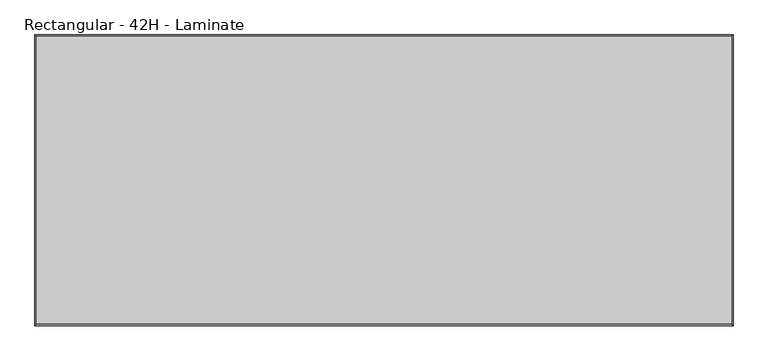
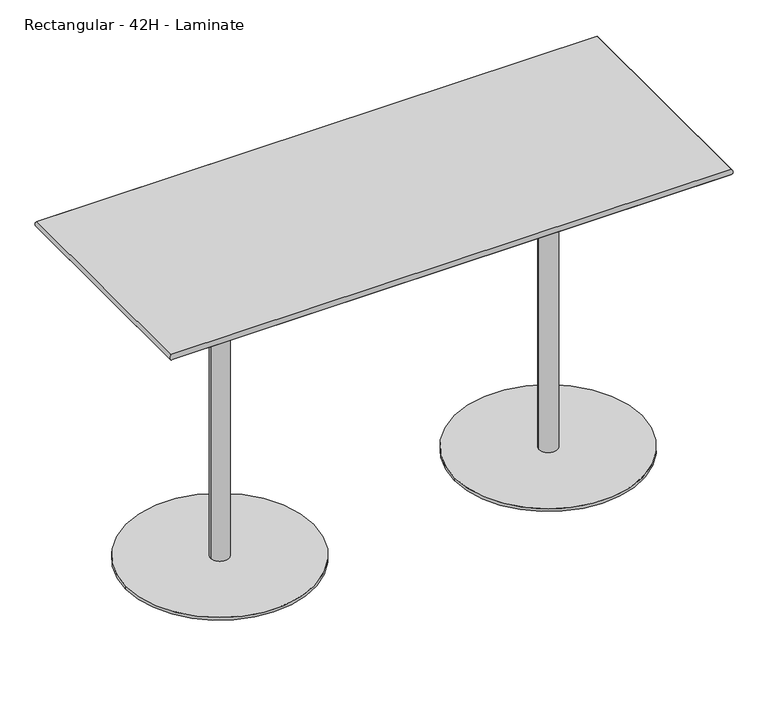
"""IFC4 building model written with IfcOpenShell, lengths in millimetres: furniture geometry, Steelcase Coalesse - Enea - Table - Double Base : Rectangular - 42H - Laminate."""

import ifcopenshell
import ifcopenshell.guid

model = None  # the IFC model being written
_history = None  # IfcOwnerHistory: only IFC2X3 demands one
_inside = {}  # id of a spatial element -> (the spatial element, [elements in it])
_under = {}  # id of a project, library or spatial element -> (it, [spatial elements below it])
_declared = {}  # id of a project -> (the project, [libraries it declares])
_typed = {}  # id of a type object -> (the type object, [elements of that type])
_made_of = {}  # id of a material, layer set ... -> (it, [elements and type objects made of it])


def new_model(schema):
    """Start an empty IFC model of exactly this schema.

    Asked for "IFC4X3", IfcOpenShell would pick the latest addendum, in which some entities
    have other attributes; the version numbers below select the first issue.
    IFC2X3 requires an IfcOwnerHistory on every rooted entity: one is made here for all.
    """
    global model, _history
    if schema == "IFC4X3":
        model = ifcopenshell.file(schema_version=(4, 3, 0, 0))
    else:
        model = ifcopenshell.file(schema=schema)
    _inside.clear()
    _under.clear()
    _declared.clear()
    _typed.clear()
    _made_of.clear()
    _history = None
    if model.schema == "IFC2X3":
        org = make("IfcOrganization", Name="unknown")
        user = make(
            "IfcPersonAndOrganization",
            ThePerson=make("IfcPerson", FamilyName="unknown"),
            TheOrganization=org,
        )
        app = make(
            "IfcApplication",
            ApplicationDeveloper=org,
            Version="unknown",
            ApplicationFullName="unknown",
            ApplicationIdentifier="unknown",
        )
        _history = make(
            "IfcOwnerHistory",
            OwningUser=user,
            OwningApplication=app,
            ChangeAction="ADDED",
            CreationDate=0,
        )
    return model


def make(cls, **values):
    """One entity of the class cls with the attributes given. An attribute that is None is left unset."""
    return model.create_entity(
        cls, **{name: value for name, value in values.items() if value is not None}
    )


def rooted(cls, **values):
    """An entity with a GlobalId (a new one), such as an element, a storey or a relation."""
    return make(cls, GlobalId=ifcopenshell.guid.new(), OwnerHistory=_history, **values)


def si_unit(unit_type, name, prefix=None):
    """IfcSIUnit, for example si_unit("LENGTHUNIT", "METRE", prefix="MILLI")."""
    return make("IfcSIUnit", UnitType=unit_type, Prefix=prefix, Name=name)


def assignment(units):
    """IfcUnitAssignment: the units of a project."""
    return None if units is None else make("IfcUnitAssignment", Units=units)


def point(xyz):
    """IfcCartesianPoint."""
    return None if xyz is None else make("IfcCartesianPoint", Coordinates=xyz)


def direction(xyz):
    """IfcDirection."""
    return None if xyz is None else make("IfcDirection", DirectionRatios=xyz)


def frame(location, z_axis=None, x_axis=None):
    """IfcAxis2Placement3D, a coordinate frame: its origin and axes. An axis left out is left unset."""
    return make(
        "IfcAxis2Placement3D",
        Location=point(location),
        Axis=direction(z_axis),
        RefDirection=direction(x_axis),
    )


def frame_2d(location, x_axis=None):
    """IfcAxis2Placement2D, a coordinate frame in the plane: its origin and x axis."""
    return make(
        "IfcAxis2Placement2D", Location=point(location), RefDirection=direction(x_axis)
    )


def origin():
    """The frame at (0, 0, 0) with its axes left unset."""
    return frame((0.0, 0.0, 0.0))


def origin_with_axes():
    """The frame at (0, 0, 0) with the z axis (0, 0, 1) and the x axis (1, 0, 0) written out."""
    return frame((0.0, 0.0, 0.0), z_axis=(0.0, 0.0, 1.0), x_axis=(1.0, 0.0, 0.0))


def place(relative_to, where):
    """IfcLocalPlacement: puts the frame where relative to a parent placement (None: the world)."""
    return make(
        "IfcLocalPlacement", PlacementRelTo=relative_to, RelativePlacement=where
    )


def context(
    kind, dimensions, precision=None, world=None, true_north=None, identifier=None
):
    """IfcGeometricRepresentationContext, for example the 3D "Model" context."""
    return make(
        "IfcGeometricRepresentationContext",
        ContextIdentifier=identifier,
        ContextType=kind,
        CoordinateSpaceDimension=dimensions,
        Precision=precision,
        WorldCoordinateSystem=world,
        TrueNorth=true_north,
    )


def project(units=None, contexts=None):
    """IfcProject with its units and contexts."""
    return rooted(
        "IfcProject",
        Name="project",
        RepresentationContexts=contexts,
        UnitsInContext=assignment(units),
    )


def spatial(cls, under=None, at=None, **own):
    """A site, building, storey or space (cls), placed at a placement, below another one or the project."""
    s = rooted(cls, ObjectPlacement=at, **own)
    if under is not None:
        _under.setdefault(under.id(), (under, []))[1].append(s)
    return s


def polyline(points):
    """IfcPolyline through the points."""
    return make("IfcPolyline", Points=[point(p) for p in points])


def circle_curve(where, radius):
    """IfcCircle in the frame where."""
    return make("IfcCircle", Position=where, Radius=radius)


def ellipse_curve(where, semi_axis1, semi_axis2):
    """IfcEllipse in the frame where."""
    return make(
        "IfcEllipse", Position=where, SemiAxis1=semi_axis1, SemiAxis2=semi_axis2
    )


def trimmed(basis, trim1, trim2, sense, master):
    """IfcTrimmedCurve: the piece of a basis curve between two trims."""
    return make(
        "IfcTrimmedCurve",
        BasisCurve=basis,
        Trim1=trim1,
        Trim2=trim2,
        SenseAgreement=sense,
        MasterRepresentation=master,
    )


def segment(curve, same_sense, transition):
    """IfcCompositeCurveSegment."""
    return make(
        "IfcCompositeCurveSegment",
        Transition=transition,
        SameSense=same_sense,
        ParentCurve=curve,
    )


def composite_curve(segments, self_intersect=None):
    """IfcCompositeCurve: segments joined end to end."""
    return make("IfcCompositeCurve", Segments=segments, SelfIntersect=self_intersect)


def outline(outer, holes=None, kind="AREA"):
    """IfcArbitraryClosedProfileDef: a profile drawn as a closed curve; with holes, ...WithVoids."""
    if holes is None:
        return make("IfcArbitraryClosedProfileDef", ProfileType=kind, OuterCurve=outer)
    return make(
        "IfcArbitraryProfileDefWithVoids",
        ProfileType=kind,
        OuterCurve=outer,
        InnerCurves=holes,
    )


def extrude(swept, where, along, depth):
    """IfcExtrudedAreaSolid: the profile swept, set in the frame where, extruded along a direction by depth."""
    return make(
        "IfcExtrudedAreaSolid",
        SweptArea=swept,
        Position=where,
        ExtrudedDirection=direction(along),
        Depth=depth,
    )


def shape(context_of_items, identifier, shape_type, items):
    """IfcShapeRepresentation: the items that make up one representation, for example the "Body"."""
    return make(
        "IfcShapeRepresentation",
        ContextOfItems=context_of_items,
        RepresentationIdentifier=identifier,
        RepresentationType=shape_type,
        Items=items,
    )


def source(mapping_origin, context_of_items, identifier, shape_type, items):
    """IfcRepresentationMap: a shape defined once, which mapped items show again and again."""
    return make(
        "IfcRepresentationMap",
        MappingOrigin=mapping_origin,
        MappedRepresentation=shape(context_of_items, identifier, shape_type, items),
    )


def transform(
    local_origin,
    x_axis=None,
    y_axis=None,
    z_axis=None,
    scale=None,
    scale2=None,
    scale3=None,
    uniform=True,
):
    """IfcCartesianTransformationOperator3D, or its non-uniform kind. x_axis, y_axis, z_axis: its Axis1, 2, 3."""
    if uniform:
        return make(
            "IfcCartesianTransformationOperator3D",
            Axis1=direction(x_axis),
            Axis2=direction(y_axis),
            LocalOrigin=point(local_origin),
            Scale=scale,
            Axis3=direction(z_axis),
        )
    return make(
        "IfcCartesianTransformationOperator3DnonUniform",
        Axis1=direction(x_axis),
        Axis2=direction(y_axis),
        LocalOrigin=point(local_origin),
        Scale=scale,
        Axis3=direction(z_axis),
        Scale2=scale2,
        Scale3=scale3,
    )


def mapped(mapping_source, mapping_target):
    """IfcMappedItem: shows the shape of a source again, moved by a transform."""
    return make(
        "IfcMappedItem", MappingSource=mapping_source, MappingTarget=mapping_target
    )


def made_of(thing, what):
    """Note that an element or type object is made of a material, layer set ...; save() writes the relation."""
    if what is not None:
        _made_of.setdefault(what.id(), (what, []))[1].append(thing)
    return thing


def element(
    cls,
    number,
    at=None,
    inside=None,
    cuts=None,
    type_object=None,
    material=None,
    context=None,
    identifier="Body",
    shape_type=None,
    held_by="IfcProductDefinitionShape",
    body=None,
    shapes=None,
    **own,
):
    """One element of the class cls, such as IfcWall. Its Tag is "e" and its number.

    at: its placement. inside: the storey or other place that contains it. cuts: it is an
    opening in that element (IfcRelVoidsElement). A single representation is given by context,
    identifier, shape_type and body (its items); several are given by shapes. held_by: the class
    of the entity that holds the representations. save() writes the other relations.
    """
    e = rooted(cls, Tag="e%d" % number, ObjectPlacement=at, **own)
    if body is not None:
        shapes = [shape(context, identifier, shape_type, body)]
    if shapes is not None:
        e.Representation = make(held_by, Representations=shapes)
    if inside is not None:
        _inside.setdefault(inside.id(), (inside, []))[1].append(e)
    if cuts is not None:
        rooted(
            "IfcRelVoidsElement", RelatingBuildingElement=cuts, RelatedOpeningElement=e
        )
    if type_object is not None:
        _typed.setdefault(type_object.id(), (type_object, []))[1].append(e)
    return made_of(e, material)


def aggregate(whole, parts):
    """IfcRelAggregates: a whole, such as a stair, and the parts it consists of."""
    return rooted("IfcRelAggregates", RelatingObject=whole, RelatedObjects=parts)


def save(model, path):
    """Write the relations noted so far, then the file.

    IfcRelAggregates (storeys below a building ...), IfcRelContainedInSpatialStructure (elements
    in a storey), IfcRelDefinesByType, IfcRelAssociatesMaterial and IfcRelDeclares: one each for
    every whole, place, type object, material and project.
    """
    for whole, parts in _under.values():
        aggregate(whole, parts)
    for where, things in _inside.values():
        rooted(
            "IfcRelContainedInSpatialStructure",
            RelatedElements=things,
            RelatingStructure=where,
        )
    for kind, things in _typed.values():
        rooted("IfcRelDefinesByType", RelatedObjects=things, RelatingType=kind)
    for what, things in _made_of.values():
        rooted("IfcRelAssociatesMaterial", RelatedObjects=things, RelatingMaterial=what)
    for by, libraries in _declared.values():
        rooted("IfcRelDeclares", RelatingContext=by, RelatedDefinitions=libraries)
    model.write(path)


def plane_surface(at):
    """IfcPlane: the flat surface through the origin of the frame at, square to its z axis."""
    return make("IfcPlane", Position=at)


def cylinder_surface(at, radius):
    """IfcCylindricalSurface: all points at the distance radius from the z axis of the frame at."""
    return make("IfcCylindricalSurface", Position=at, Radius=radius)


def advanced_brep(points, edges, surfaces, faces):
    """IfcAdvancedBrep: a solid bounded by faces that lie on surfaces and meet in shared edges.

    An edge is (start, end): straight between two places in points (the first is 0);
    or (start, end, curve); or (start, end, curve, False) where it runs against its curve.
    A face is (place in surfaces, loops), or (place, loops, False) where it looks against
    its surface's normal. A loop lists edges by number (the first is 1), with a minus sign
    where the edge is run from its end to its start. The first loop is the outer one.
    """
    corners = [point(p) for p in points]
    vertices = [make("IfcVertexPoint", VertexGeometry=c) for c in corners]
    made = []
    for start, end, *more in edges:
        made.append(
            make(
                "IfcEdgeCurve",
                EdgeStart=vertices[start],
                EdgeEnd=vertices[end],
                EdgeGeometry=more[0] if more else make("IfcPolyline", Points=[corners[start], corners[end]]),
                SameSense=more[1] if len(more) > 1 else True,
            )
        )
    hull = []
    for where, loops, *sense in faces:
        bounds = []
        for j, loop in enumerate(loops):
            ring = [make("IfcOrientedEdge", EdgeElement=made[abs(k) - 1], Orientation=k > 0) for k in loop]
            bounds.append(
                make(
                    "IfcFaceOuterBound" if j == 0 else "IfcFaceBound",
                    Bound=make("IfcEdgeLoop", EdgeList=ring),
                    Orientation=True,
                )
            )
        hull.append(make("IfcAdvancedFace", Bounds=bounds, FaceSurface=surfaces[where], SameSense=sense[0] if sense else True))
    return make("IfcAdvancedBrep", Outer=make("IfcClosedShell", CfsFaces=hull))


def rectangular_42h_laminate_b2aa12cb(model_context):
    return source(origin(), model_context, "Body", "SolidModel", [
        advanced_brep(
        [(-1205.8132353, -914.4181244, 1066.8), (-1205.8132353, -914.4181244, 1047.75), (614.3872896, -914.4181244, 1047.75), (614.3872896, -914.4181244, 1066.8), (614.3872896, -161.0175995, 1047.75), (614.3872896, -161.0175995, 1066.8), (-1205.8132353, -161.0175995, 1047.75), (-1205.8132353, -161.0175995, 1066.8)],
        [
            (0, 1, ellipse_curve(frame((-1196.3937054, -904.9985945, 1057.275), z_axis=(0.7071067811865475, -0.7071067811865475, 0.0), x_axis=(-0.7071067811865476, -0.7071067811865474, 0.0)), 18.9448235, 13.3960131)),
            (1, 2),
            (2, 3, ellipse_curve(frame((604.9677598, -904.9985945, 1057.275), z_axis=(-0.7071067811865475, -0.7071067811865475, 0.0), x_axis=(-0.7071067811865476, 0.7071067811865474, 0.0)), 18.9448235, 13.3960131)),
            (3, 0),
            (1, 0),
            (3, 2),
            (2, 4),
            (4, 5, ellipse_curve(frame((604.9677598, -170.4371294, 1057.275), z_axis=(0.7071067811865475, -0.7071067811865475, 0.0), x_axis=(-0.7071067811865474, -0.7071067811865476, 0.0)), 18.9448235, 13.3960131)),
            (5, 3),
            (5, 4),
            (4, 6),
            (6, 7, ellipse_curve(frame((-1196.3937054, -170.4371294, 1057.275), z_axis=(0.7071067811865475, 0.7071067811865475, 0.0), x_axis=(0.7071067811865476, -0.7071067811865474, 0.0)), 18.9448235, 13.3960131)),
            (7, 5),
            (7, 6),
            (6, 1),
            (0, 7),
        ],
        [
            cylinder_surface(frame((-1205.8132353, -904.9985945, 1057.275), z_axis=(-1.0, 0.0, 0.0), x_axis=(0.0, 1.0, 0.0)), 13.3960131),
            plane_surface(frame((-1205.8132353, -914.4181244, 1066.8), z_axis=(0.0, 1.0, 0.0), x_axis=(1.0, 0.0, 0.0))),
            cylinder_surface(frame((604.9677598, -914.4181244, 1057.275), z_axis=(0.0, -1.0, 0.0), x_axis=(-1.0, 0.0, 0.0)), 13.3960131),
            plane_surface(frame((614.3872896, -914.4181244, 1066.8), z_axis=(-1.0, 0.0, 0.0), x_axis=(0.0, 1.0, 0.0))),
            cylinder_surface(frame((614.3872896, -170.4371294, 1057.275), z_axis=(1.0, 0.0, 0.0), x_axis=(0.0, -1.0, 0.0)), 13.3960131),
            plane_surface(frame((614.3872896, -161.0175995, 1066.8), z_axis=(0.0, -1.0, 0.0), x_axis=(-1.0, 0.0, 0.0))),
            cylinder_surface(frame((-1196.3937054, -161.0175995, 1057.275), z_axis=(0.0, 1.0, 0.0), x_axis=(1.0, 0.0, 0.0)), 13.3960131),
            plane_surface(frame((-1205.8132353, -161.0175995, 1066.8), z_axis=(1.0, 0.0, 0.0), x_axis=(0.0, -1.0, 0.0))),
        ],
        [
            (0, [[1, 2, 3, 4]]),
            (1, [[5, -4, 6, -2]]),
            (2, [[-3, 7, 8, 9]]),
            (3, [[-6, -9, 10, -7]]),
            (4, [[-8, 11, 12, 13]]),
            (5, [[-10, -13, 14, -11]]),
            (6, [[-12, 15, -1, 16]]),
            (7, [[-14, -16, -5, -15]]),
        ],
    ),
        extrude(outline(polyline([(614.3872896, -161.0175995), (614.3872896, -914.4181244), (-1205.8132353, -914.4181244), (-1205.8132353, -161.0175995), (614.3872896, -161.0175995)])), frame((0.0, 0.0, 1047.75), z_axis=(0.0, 0.0, 1.0), x_axis=(1.0, 0.0, 0.0)), (0.0, 0.0, 1.0), 19.05),
        extrude(outline(composite_curve([segment(trimmed(circle_curve(frame_2d((-829.113029, -284.0746893)), 25.4), [point((-803.713029, -284.0746893))], [point((-854.513029, -284.0746893))], False, "CARTESIAN"), True, "CONTINUOUS"), segment(trimmed(circle_curve(frame_2d((-829.113029, -284.0746893)), 25.4), [point((-854.513029, -284.0746893))], [point((-803.713029, -284.0746893))], False, "CARTESIAN"), True, "CONTINUOUS")], self_intersect=False)), origin_with_axes(), (0.0, 0.0, 1.0), 6.35),
        extrude(outline(composite_curve([segment(trimmed(circle_curve(frame_2d((-1082.7563397, -537.3772238)), 25.4), [point((-1057.3563397, -537.3772238))], [point((-1108.1563397, -537.3772238))], False, "CARTESIAN"), True, "CONTINUOUS"), segment(trimmed(circle_curve(frame_2d((-1082.7563397, -537.3772238)), 25.4), [point((-1108.1563397, -537.3772238))], [point((-1057.3563397, -537.3772238))], False, "CARTESIAN"), True, "CONTINUOUS")], self_intersect=False)), origin_with_axes(), (0.0, 0.0, 1.0), 6.35),
        extrude(outline(composite_curve([segment(trimmed(circle_curve(frame_2d((-575.4697182, -537.3772238)), 25.4), [point((-550.0697182, -537.3772238))], [point((-600.8697182, -537.3772238))], False, "CARTESIAN"), True, "CONTINUOUS"), segment(trimmed(circle_curve(frame_2d((-575.4697182, -537.3772238)), 25.4), [point((-600.8697182, -537.3772238))], [point((-550.0697182, -537.3772238))], False, "CARTESIAN"), True, "CONTINUOUS")], self_intersect=False)), origin_with_axes(), (0.0, 0.0, 1.0), 6.35),
        extrude(outline(composite_curve([segment(trimmed(circle_curve(frame_2d((-829.113029, -790.6797584)), 25.4), [point((-803.713029, -790.6797584))], [point((-854.513029, -790.6797584))], False, "CARTESIAN"), True, "CONTINUOUS"), segment(trimmed(circle_curve(frame_2d((-829.113029, -790.6797584)), 25.4), [point((-854.513029, -790.6797584))], [point((-803.713029, -790.6797584))], False, "CARTESIAN"), True, "CONTINUOUS")], self_intersect=False)), origin_with_axes(), (0.0, 0.0, 1.0), 6.35),
        extrude(outline(composite_curve([segment(trimmed(circle_curve(frame_2d((-829.113029, -537.718)), 304.8), [point((-1133.913029, -537.718))], [point((-524.313029, -537.718))], False, "CARTESIAN"), True, "CONTINUOUS"), segment(trimmed(circle_curve(frame_2d((-829.113029, -537.718)), 304.8), [point((-524.313029, -537.718))], [point((-1133.913029, -537.718))], False, "CARTESIAN"), True, "CONTINUOUS")], self_intersect=False)), frame((0.0, 0.0, 6.35), z_axis=(0.0, 0.0, 1.0), x_axis=(1.0, 0.0, 0.0)), (0.0, 0.0, 1.0), 9.525),
        extrude(outline(composite_curve([segment(trimmed(circle_curve(frame_2d((-829.1133197, -537.7179273)), 30.0214725), [point((-859.1347922, -537.7179273))], [point((-799.0918471, -537.7179273))], False, "CARTESIAN"), True, "CONTINUOUS"), segment(trimmed(circle_curve(frame_2d((-829.1133197, -537.7179273)), 30.0214725), [point((-799.0918471, -537.7179273))], [point((-859.1347922, -537.7179273))], False, "CARTESIAN"), True, "CONTINUOUS")], self_intersect=False)), frame((0.0, 0.0, 15.875), z_axis=(0.0, 0.0, 1.0), x_axis=(1.0, 0.0, 0.0)), (0.0, 0.0, 1.0), 1031.875),
        extrude(outline(composite_curve([segment(trimmed(circle_curve(frame_2d((237.686971, -284.0746893)), 25.4), [point((212.286971, -284.0746893))], [point((263.086971, -284.0746893))], False, "CARTESIAN"), True, "CONTINUOUS"), segment(trimmed(circle_curve(frame_2d((237.686971, -284.0746893)), 25.4), [point((263.086971, -284.0746893))], [point((212.286971, -284.0746893))], False, "CARTESIAN"), True, "CONTINUOUS")], self_intersect=False)), origin_with_axes(), (0.0, 0.0, 1.0), 6.35),
        extrude(outline(composite_curve([segment(trimmed(circle_curve(frame_2d((491.3302818, -537.3772238)), 25.4), [point((465.9302818, -537.3772238))], [point((516.7302818, -537.3772238))], False, "CARTESIAN"), True, "CONTINUOUS"), segment(trimmed(circle_curve(frame_2d((491.3302818, -537.3772238)), 25.4), [point((516.7302818, -537.3772238))], [point((465.9302818, -537.3772238))], False, "CARTESIAN"), True, "CONTINUOUS")], self_intersect=False)), origin_with_axes(), (0.0, 0.0, 1.0), 6.35),
        extrude(outline(composite_curve([segment(trimmed(circle_curve(frame_2d((-15.9563397, -537.3772238)), 25.4), [point((-41.3563397, -537.3772238))], [point((9.4436603, -537.3772238))], False, "CARTESIAN"), True, "CONTINUOUS"), segment(trimmed(circle_curve(frame_2d((-15.9563397, -537.3772238)), 25.4), [point((9.4436603, -537.3772238))], [point((-41.3563397, -537.3772238))], False, "CARTESIAN"), True, "CONTINUOUS")], self_intersect=False)), origin_with_axes(), (0.0, 0.0, 1.0), 6.35),
        extrude(outline(composite_curve([segment(trimmed(circle_curve(frame_2d((237.686971, -790.6797584)), 25.4), [point((212.286971, -790.6797584))], [point((263.086971, -790.6797584))], False, "CARTESIAN"), True, "CONTINUOUS"), segment(trimmed(circle_curve(frame_2d((237.686971, -790.6797584)), 25.4), [point((263.086971, -790.6797584))], [point((212.286971, -790.6797584))], False, "CARTESIAN"), True, "CONTINUOUS")], self_intersect=False)), origin_with_axes(), (0.0, 0.0, 1.0), 6.35),
        extrude(outline(composite_curve([segment(trimmed(circle_curve(frame_2d((237.686971, -537.718)), 304.8), [point((542.486971, -537.718))], [point((-67.113029, -537.718))], False, "CARTESIAN"), True, "CONTINUOUS"), segment(trimmed(circle_curve(frame_2d((237.686971, -537.718)), 304.8), [point((-67.113029, -537.718))], [point((542.486971, -537.718))], False, "CARTESIAN"), True, "CONTINUOUS")], self_intersect=False)), frame((0.0, 0.0, 6.35), z_axis=(0.0, 0.0, 1.0), x_axis=(1.0, 0.0, 0.0)), (0.0, 0.0, 1.0), 9.525),
        extrude(outline(composite_curve([segment(trimmed(circle_curve(frame_2d((237.6872617, -537.7179273)), 30.0214725), [point((267.7087342, -537.7179273))], [point((207.6657892, -537.7179273))], False, "CARTESIAN"), True, "CONTINUOUS"), segment(trimmed(circle_curve(frame_2d((237.6872617, -537.7179273)), 30.0214725), [point((207.6657892, -537.7179273))], [point((267.7087342, -537.7179273))], False, "CARTESIAN"), True, "CONTINUOUS")], self_intersect=False)), frame((0.0, 0.0, 15.875), z_axis=(0.0, 0.0, 1.0), x_axis=(1.0, 0.0, 0.0)), (0.0, 0.0, 1.0), 1031.875),
    ])


if __name__ == "__main__":
    model = new_model("IFC4")
    model_context = context("Model", 3, world=origin())
    ifc_project = project(units=[si_unit("LENGTHUNIT", "METRE", prefix="MILLI")], contexts=[model_context])
    site = spatial("IfcSite", under=ifc_project)
    building = spatial("IfcBuilding", under=site)
    placement = place(None, origin())
    rectangular_42h_laminate_shape = rectangular_42h_laminate_b2aa12cb(model_context)
    element("IfcFurniture", 1, ObjectType="Steelcase Coalesse - Enea - Table - Double Base : Rectangular - 42H - Laminate", at=placement, inside=building, context=model_context, shape_type="MappedRepresentation", body=[
        mapped(rectangular_42h_laminate_shape, transform((0.0, 0.0, 0.0), x_axis=(1.0, 0.0, 0.0), y_axis=(0.0, 1.0, 0.0), z_axis=(0.0, 0.0, 1.0))),
    ])
    save(model, "model.ifc")
